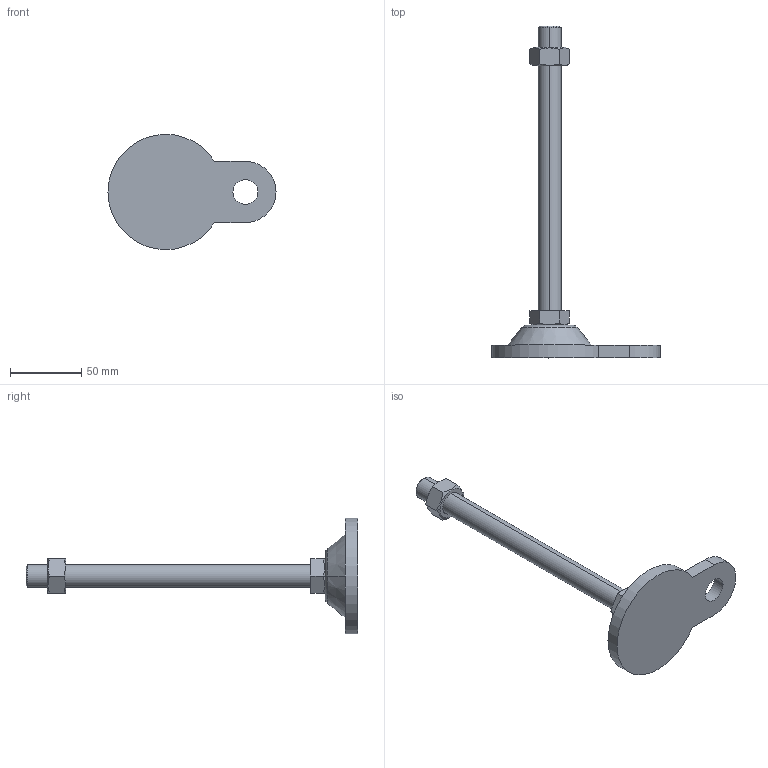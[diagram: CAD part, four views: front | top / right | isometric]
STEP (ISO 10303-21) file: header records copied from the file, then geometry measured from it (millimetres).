
FILE_DESCRIPTION (( 'STEP AP214' ), '1' );
FILE_NAME ('ARB81-M16-200.step', '2021-01-07T07:17:30', ( '' ), ( '' ), 'SwSTEP 2.0', 'SolidWorks 2019', '' );
FILE_SCHEMA (( 'AUTOMOTIVE_DESIGN' ));
Length unit declared in the file: millimetre
Products named in the file (1): ARB81-M16-200
Bounding box: 118 x 233 x 80.98 mm (x, y, z)
Volume: 131567.3 mm3; surface area: 31124.9 mm2
Topology: 3 solids, 3 shells, 46 faces, 100 edges, 62 vertices
Faces by surface type: plane 22, cone 14, cylinder 8, torus 2
Entity records: 1470 total; most frequent: CARTESIAN_POINT 407, DIRECTION 212, ORIENTED_EDGE 200, EDGE_CURVE 100, AXIS2_PLACEMENT_3D 83, VERTEX_POINT 62, EDGE_LOOP 52, ADVANCED_FACE 46
